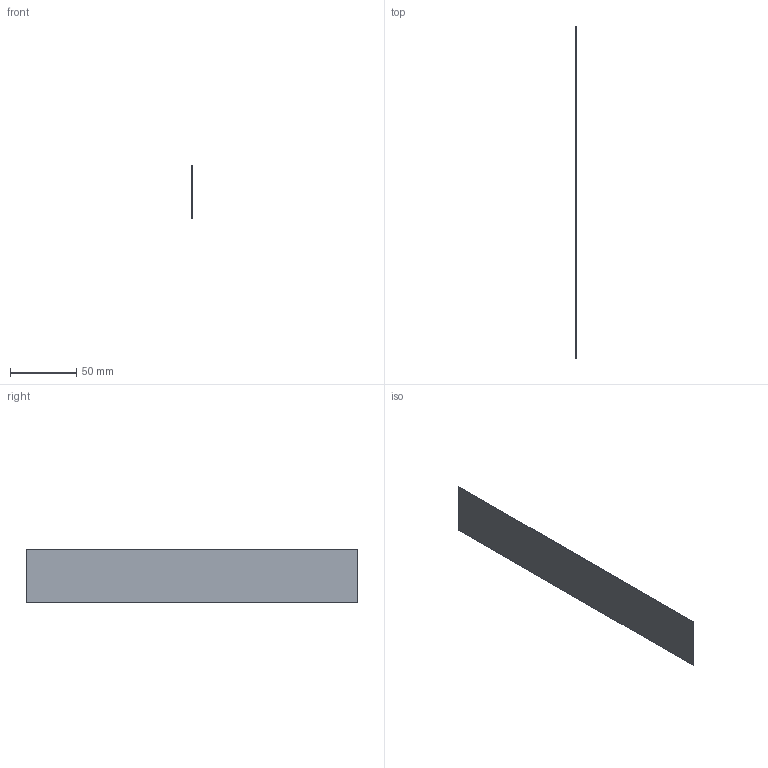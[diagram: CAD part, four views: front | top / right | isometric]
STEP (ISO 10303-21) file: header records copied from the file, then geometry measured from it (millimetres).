
FILE_DESCRIPTION( ( 'Unknown' ), '1' );
FILE_NAME( 'X:/SolidEdge/Models/Dokumentationen/Opto/Reflektoren/vereinfachte Modelle/Neutralformate/FTDF 040U250.stp', 'Unknown', ( 'Unknown' ), ( 'Unknown' ), 'PSStep 19.0.9', 'Unknown', ' ' );
FILE_SCHEMA( ( 'AUTOMOTIVE_DESIGN { 1 0 10303 214 1 1 1 1 }' ) );
Length unit declared in the file: millimetre
Products named in the file (1): 10426118d
Bounding box: 0.3 x 250 x 40 mm (x, y, z)
Volume: 3000 mm3; surface area: 20174 mm2
Topology: 1 solids, 1 shells, 6 faces, 12 edges, 8 vertices
Faces by surface type: plane 6
Entity records: 220 total; most frequent: CARTESIAN_POINT 27, DIRECTION 26, ORIENTED_EDGE 24, EDGE_CURVE 12, LINE 12, VECTOR 12, VERTEX_POINT 8, AXIS2_PLACEMENT_3D 7
